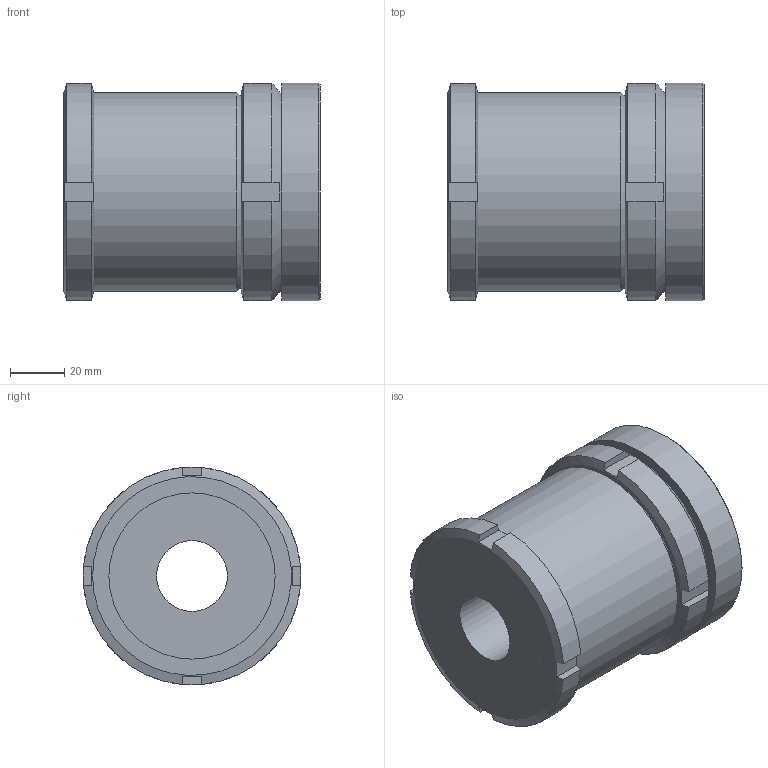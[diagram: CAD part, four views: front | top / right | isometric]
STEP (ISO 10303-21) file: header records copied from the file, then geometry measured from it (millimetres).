
FILE_DESCRIPTION( ( 'STEP AP203' ), '1' );
FILE_NAME( 'C:/Temp/Ganter_Step_05_03_2020/data/3_2/gn350_2/gn_350_2_st/Levelling set GN 350.2-80-26-94-ST (0-0).stp', '2020-03-13T05:28:01', ( 'License CC BY-ND 4.0' ), ( 'CADENAS' ), ' ', 'PARTsolutions', ' ' );
FILE_SCHEMA( ( 'CONFIG_CONTROL_DESIGN' ) );
Length unit declared in the file: millimetre
Products named in the file (4): Levelling set GN 350.2-80-26-94-ST (0-0); _Levelling set GN 350.2-80-26-94-ST-G; _Levelling set GN 350.2-80-26-94-ST-K; _Levelling set GN 350.2-80-26-94-ST-P(0)
Assembly tree (3 placements, depth 2):
  Levelling set GN 350.2-80-26-94-ST (0-0)
    _Levelling set GN 350.2-80-26-94-ST-G
    _Levelling set GN 350.2-80-26-94-ST-K
    _Levelling set GN 350.2-80-26-94-ST-P(0)
Bounding box: 94 x 80 x 80 mm (x, y, z)
Volume: 360613.9 mm3; surface area: 76848 mm2
Topology: 3 solids, 3 shells, 62 faces, 149 edges, 99 vertices
Faces by surface type: plane 36, cylinder 19, cone 5, sphere 2
Full cylindrical faces by diameter (mm): 26 x1, 48 x1, 53.529 x1, 54.5 x1, 57.835 x1, 60 x2, 61 x2, 73 x1, 80 x1
Entity records: 1925 total; most frequent: CARTESIAN_POINT 462, DIRECTION 276, ORIENTED_EDGE 248, EDGE_CURVE 124, AXIS2_PLACEMENT_3D 122, EDGE_LOOP 92, VERTEX_POINT 92, FACE_OUTER_BOUND 75
